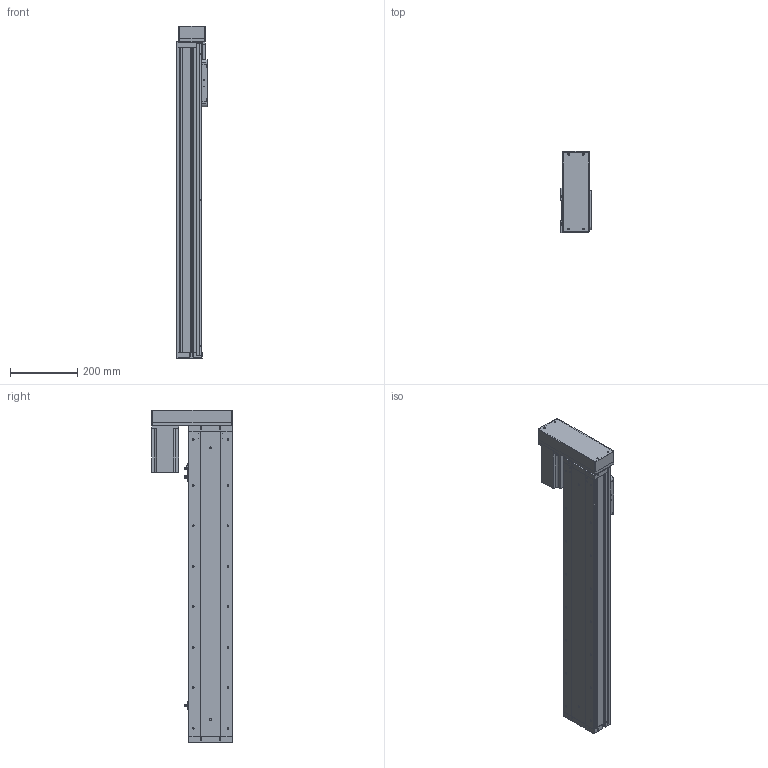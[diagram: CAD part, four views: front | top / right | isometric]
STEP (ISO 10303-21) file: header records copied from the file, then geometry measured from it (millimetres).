
FILE_DESCRIPTION (( 'STEP AP214' ), '1' );
FILE_NAME ('KSD130S-P2010-ML-CR-S700.STEP', '2019-09-24T06:21:35', ( '微软用户' ), ( '微软中国' ), 'SwSTEP 2.0', 'SolidWorks 2014', '' );
FILE_SCHEMA (( 'AUTOMOTIVE_DESIGN' ));
Length unit declared in the file: millimetre
Products named in the file (14): 130宽滚珠螺姆安装板1; 台达ECMA－C20807AS伺服电机; 130宽侧板全封闭-700行程; 130宽全封闭马达安装板丝杠; 130宽全封闭端盖丝杠; 130宽底板全封闭丝杠-700行程; KSD130S-P2010-ML-CR-S700; 130宽模组马达安装板连板左右折丝杆; 感应片130宽全封闭; 130宽模组保护罩左右折; U倰嫖萇EEㄜSX672; 130遵裔啣揤啣1; 130宽盖板全封闭-700行程; 130宽滚珠螺姆安装板1防护罩
Assembly tree (17 placements, depth 2):
  KSD130S-P2010-ML-CR-S700
    130宽底板全封闭丝杠-700行程
    130宽全封闭端盖丝杠
    130宽全封闭马达安装板丝杠
    130宽侧板全封闭-700行程  x2
    130宽滚珠螺姆安装板1
    130宽滚珠螺姆安装板1防护罩
    130宽盖板全封闭-700行程
    130遵裔啣揤啣1  x2
    U倰嫖萇EEㄜSX672  x3
    感应片130宽全封闭
    130宽模组马达安装板连板左右折丝杆
    台达ECMA－C20807AS伺服电机
    130宽模组保护罩左右折
Bounding box: 90 x 240 x 984.5 mm (x, y, z)
Volume: 3793066.2 mm3; surface area: 1198740.8 mm2
Topology: 18 solids, 18 shells, 1486 faces, 4044 edges, 2543 vertices
Faces by surface type: cylinder 656, plane 611, cone 219
Entity records: 45174 total; most frequent: DIRECTION 6879, CARTESIAN_POINT 6763, ORIENTED_EDGE 6358, EDGE_CURVE 3179, AXIS2_PLACEMENT_3D 2475, VERTEX_POINT 2073, VECTOR 1929, LINE 1929
